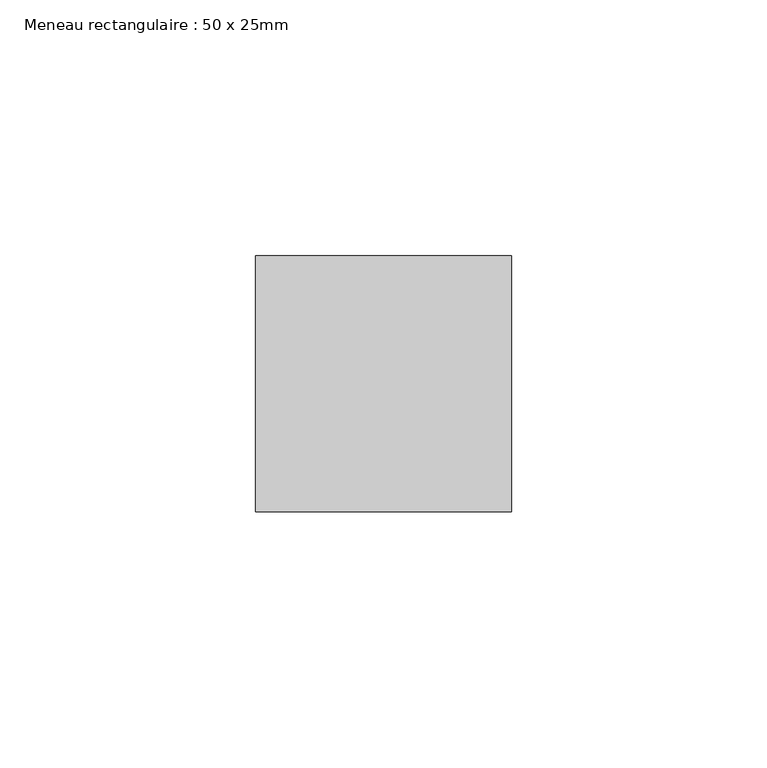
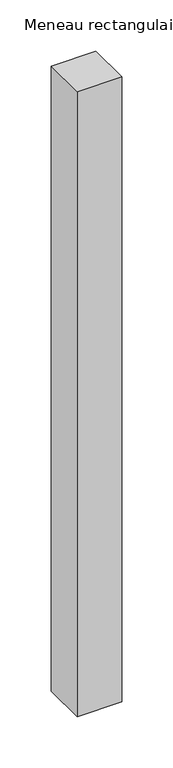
"""IFC4 building model written with IfcOpenShell, lengths in millimetres: member geometry, Meneau rectangulaire : 50 x 25mm."""

from ifc_helpers import new_model, si_unit, frame, origin, place, context, project, spatial, polyline, outline, extrude, source, transform, mapped, element, save


def meneau_rectangulaire_50_x_25mm_a1ba0998(model_context):
    return source(origin(), model_context, "Body", "SweptSolid", [
        extrude(outline(polyline([(0.0, 0.0), (0.0, -50.0), (-50.0, -50.0), (-50.0, 0.0), (0.0, 0.0)])), frame((0.0, 0.0, -742.5269779), z_axis=(0.0, 0.0, 1.0), x_axis=(1.0, 0.0, 0.0)), (0.0, 0.0, 1.0), 742.5269779),
    ])


if __name__ == "__main__":
    model = new_model("IFC4")
    model_context = context("Model", 3, world=origin())
    ifc_project = project(units=[si_unit("LENGTHUNIT", "METRE", prefix="MILLI")], contexts=[model_context])
    site = spatial("IfcSite", under=ifc_project)
    building = spatial("IfcBuilding", under=site)
    placement = place(None, origin())
    meneau_rectangulaire_50_x_25mm_shape = meneau_rectangulaire_50_x_25mm_a1ba0998(model_context)
    element("IfcMember", 1, ObjectType="Meneau rectangulaire : 50 x 25mm", at=placement, inside=building, context=model_context, shape_type="MappedRepresentation", body=[
        mapped(meneau_rectangulaire_50_x_25mm_shape, transform((0.0, 0.0, 0.0), x_axis=(1.0, 0.0, 0.0), y_axis=(0.0, 1.0, 0.0), z_axis=(0.0, 0.0, 1.0))),
    ])
    save(model, "model.ifc")
